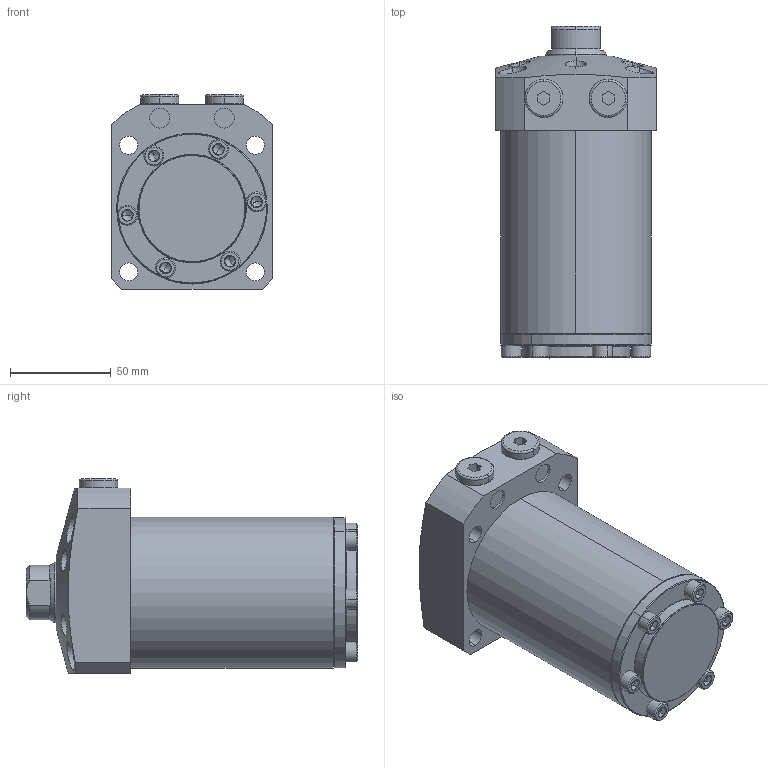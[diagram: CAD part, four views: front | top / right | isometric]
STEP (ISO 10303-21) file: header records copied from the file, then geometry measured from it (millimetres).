
FILE_DESCRIPTION (( 'STEP AP203' ), '1' );
FILE_NAME ('680750-CA-076.step', '2016-11-02T03:27:21', ( 'wxp' ), ( '' ), 'SwSTEP 2.0', 'SolidWorks 2011', '' );
FILE_SCHEMA (( 'CONFIG_CONTROL_DESIGN' ));
Length unit declared in the file: millimetre
Products named in the file (7): 680750-CA-076; 68075-CA-76-6^680750-CA-076; 68075-CA-76-5^680750-CA-076; 68075-CA-76-4^680750-CA-076; 葩68075-CA-76-3^680750-CA-076; 68075-CA-76-2^680750-CA-076; 68075-CA-76-1^680750-CA-076
Assembly tree (17 placements, depth 2):
  680750-CA-076
    68075-CA-76-5^680750-CA-076  x6
    葩68075-CA-76-3^680750-CA-076
    68075-CA-76-4^680750-CA-076  x6
    68075-CA-76-2^680750-CA-076
    68075-CA-76-1^680750-CA-076
    68075-CA-76-6^680750-CA-076  x2
Bounding box: 80 x 165 x 96.5 mm (x, y, z)
Volume: 720456.6 mm3; surface area: 97563.8 mm2
Topology: 17 solids, 17 shells, 545 faces, 1031 edges, 539 vertices
Faces by surface type: plane 234, cone 168, cylinder 127, torus 16
Entity records: 7563 total; most frequent: CARTESIAN_POINT 1950, DIRECTION 1055, ORIENTED_EDGE 862, AXIS2_PLACEMENT_3D 441, EDGE_CURVE 431, VERTEX_POINT 257, EDGE_LOOP 252, CIRCLE 212
